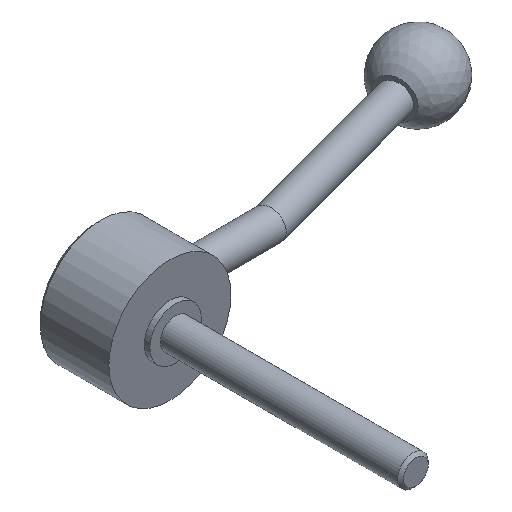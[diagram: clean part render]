
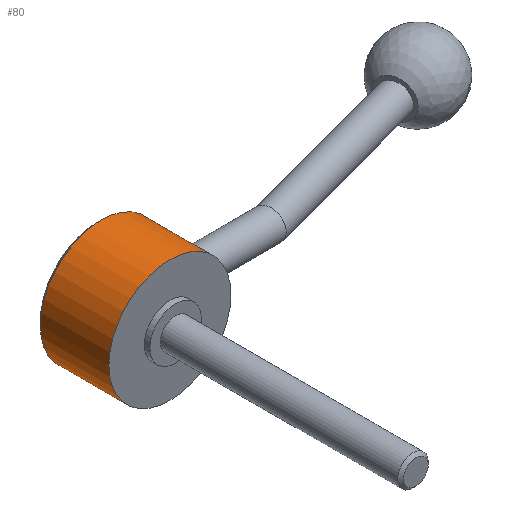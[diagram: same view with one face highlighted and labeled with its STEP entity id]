
A CAD part, isometric view. The second image highlights one B-rep face of the part: STEP entity #80.
In plain terms, the highlighted cylindrical face has radius 16 mm (diameter 32 mm), a full revolution.
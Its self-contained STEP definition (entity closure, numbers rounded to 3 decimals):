
#80 = ADVANCED_FACE( '', ( #106, #107, #108 ), #109, .T. );
#106 = FACE_OUTER_BOUND( '', #150, .T. );
#107 = FACE_BOUND( '', #151, .T. );
#108 = FACE_OUTER_BOUND( '', #152, .T. );
#109 = CYLINDRICAL_SURFACE( '', #153, 16. );
#150 = EDGE_LOOP( '', ( #204 ) );
#151 = EDGE_LOOP( '', ( #205 ) );
#152 = EDGE_LOOP( '', ( #206 ) );
#153 = AXIS2_PLACEMENT_3D( '', #207, #208, #209 );
#204 = ORIENTED_EDGE( '', *, *, #258, .F. );
#205 = ORIENTED_EDGE( '', *, *, #259, .F. );
#206 = ORIENTED_EDGE( '', *, *, #260, .T. );
#207 = CARTESIAN_POINT( '', ( 0., 0., 0. ) );
#208 = DIRECTION( '', ( 0., 1., 0. ) );
#209 = DIRECTION( '', ( 0., 0., -1. ) );
#258 = EDGE_CURVE( '', #278, #278, #279, .T. );
#259 = EDGE_CURVE( '', #280, #280, #281, .T. );
#260 = EDGE_CURVE( '', #282, #282, #283, .T. );
#278 = VERTEX_POINT( '', #306 );
#279 = CIRCLE( '', #307, 16. );
#280 = VERTEX_POINT( '', #308 );
#281 = B_SPLINE_CURVE_WITH_KNOTS( '', 3, ( #309, #310, #311, #312, #313, #314, #315, #316, #317, #318, #319, #320, #321, #322, #323, #324, #325, #326, #327, #328, #329, #330, #331, #332, #333, #334, #335, #336, #337, #338, #339, #340, #341, #342, #343, #344, #345, #346, #347, #348, #349, #350, #351, #352, #353, #354, #355, #356, #357, #358, #359, #360, #361, #362, #363, #364, #365, #366, #367, #368, #369, #370, #371, #372, #373, #374 ), .UNSPECIFIED., .T., .F., ( 2, 2, 2, 2, 2, 2, 2, 2, 2, 2, 2, 2, 2, 2, 2, 2, 2, 2, 2, 2, 2, 2, 2, 2, 2, 2, 2, 2, 2, 2, 2, 2, 2, 2, 2 ), ( -0.001, 0., 0.001, 0.002, 0.002, 0.003, 0.004, 0.005, 0.005, 0.006, 0.007, 0.008, 0.009, 0.009, 0.01, 0.011, 0.012, 0.013, 0.013, 0.014, 0.015, 0.016, 0.016, 0.017, 0.018, 0.019, 0.02, 0.02, 0.021, 0.022, 0.023, 0.024, 0.024, 0.025, 0.026 ), .UNSPECIFIED. );
#282 = VERTEX_POINT( '', #375 );
#283 = CIRCLE( '', #376, 16. );
#306 = CARTESIAN_POINT( '', ( 0., 1.5, -16. ) );
#307 = AXIS2_PLACEMENT_3D( '', #404, #405, #406 );
#308 = CARTESIAN_POINT( '', ( 15.492, 12.5, 4. ) );
#309 = CARTESIAN_POINT( '', ( 15.492, 12.765, 4. ) );
#310 = CARTESIAN_POINT( '', ( 15.492, 12.235, 4. ) );
#311 = CARTESIAN_POINT( '', ( 15.499, 11.974, 3.974 ) );
#312 = CARTESIAN_POINT( '', ( 15.525, 11.461, 3.872 ) );
#313 = CARTESIAN_POINT( '', ( 15.544, 11.207, 3.794 ) );
#314 = CARTESIAN_POINT( '', ( 15.592, 10.723, 3.593 ) );
#315 = CARTESIAN_POINT( '', ( 15.62, 10.493, 3.47 ) );
#316 = CARTESIAN_POINT( '', ( 15.682, 10.06, 3.18 ) );
#317 = CARTESIAN_POINT( '', ( 15.715, 9.855, 3.012 ) );
#318 = CARTESIAN_POINT( '', ( 15.781, 9.488, 2.644 ) );
#319 = CARTESIAN_POINT( '', ( 15.814, 9.322, 2.444 ) );
#320 = CARTESIAN_POINT( '', ( 15.875, 9.03, 2.007 ) );
#321 = CARTESIAN_POINT( '', ( 15.903, 8.906, 1.776 ) );
#322 = CARTESIAN_POINT( '', ( 15.949, 8.706, 1.295 ) );
#323 = CARTESIAN_POINT( '', ( 15.968, 8.629, 1.042 ) );
#324 = CARTESIAN_POINT( '', ( 15.993, 8.526, 0.525 ) );
#325 = CARTESIAN_POINT( '', ( 16., 8.5, 0.265 ) );
#326 = CARTESIAN_POINT( '', ( 16., 8.5, -0.26 ) );
#327 = CARTESIAN_POINT( '', ( 15.993, 8.526, -0.526 ) );
#328 = CARTESIAN_POINT( '', ( 15.968, 8.629, -1.04 ) );
#329 = CARTESIAN_POINT( '', ( 15.95, 8.704, -1.29 ) );
#330 = CARTESIAN_POINT( '', ( 15.903, 8.906, -1.775 ) );
#331 = CARTESIAN_POINT( '', ( 15.875, 9.031, -2.008 ) );
#332 = CARTESIAN_POINT( '', ( 15.814, 9.32, -2.44 ) );
#333 = CARTESIAN_POINT( '', ( 15.781, 9.486, -2.643 ) );
#334 = CARTESIAN_POINT( '', ( 15.715, 9.857, -3.014 ) );
#335 = CARTESIAN_POINT( '', ( 15.682, 10.058, -3.178 ) );
#336 = CARTESIAN_POINT( '', ( 15.62, 10.49, -3.468 ) );
#337 = CARTESIAN_POINT( '', ( 15.592, 10.724, -3.594 ) );
#338 = CARTESIAN_POINT( '', ( 15.544, 11.207, -3.794 ) );
#339 = CARTESIAN_POINT( '', ( 15.525, 11.456, -3.87 ) );
#340 = CARTESIAN_POINT( '', ( 15.499, 11.971, -3.974 ) );
#341 = CARTESIAN_POINT( '', ( 15.492, 12.237, -4. ) );
#342 = CARTESIAN_POINT( '', ( 15.492, 12.76, -4. ) );
#343 = CARTESIAN_POINT( '', ( 15.499, 13.021, -3.975 ) );
#344 = CARTESIAN_POINT( '', ( 15.525, 13.541, -3.871 ) );
#345 = CARTESIAN_POINT( '', ( 15.544, 13.791, -3.795 ) );
#346 = CARTESIAN_POINT( '', ( 15.591, 14.273, -3.595 ) );
#347 = CARTESIAN_POINT( '', ( 15.62, 14.507, -3.47 ) );
#348 = CARTESIAN_POINT( '', ( 15.682, 14.941, -3.18 ) );
#349 = CARTESIAN_POINT( '', ( 15.714, 15.142, -3.015 ) );
#350 = CARTESIAN_POINT( '', ( 15.781, 15.511, -2.646 ) );
#351 = CARTESIAN_POINT( '', ( 15.814, 15.679, -2.442 ) );
#352 = CARTESIAN_POINT( '', ( 15.875, 15.968, -2.01 ) );
#353 = CARTESIAN_POINT( '', ( 15.903, 16.092, -1.78 ) );
#354 = CARTESIAN_POINT( '', ( 15.949, 16.294, -1.294 ) );
#355 = CARTESIAN_POINT( '', ( 15.968, 16.371, -1.042 ) );
#356 = CARTESIAN_POINT( '', ( 15.993, 16.473, -0.53 ) );
#357 = CARTESIAN_POINT( '', ( 16., 16.5, -0.266 ) );
#358 = CARTESIAN_POINT( '', ( 16., 16.5, 0.262 ) );
#359 = CARTESIAN_POINT( '', ( 15.994, 16.474, 0.522 ) );
#360 = CARTESIAN_POINT( '', ( 15.968, 16.372, 1.036 ) );
#361 = CARTESIAN_POINT( '', ( 15.95, 16.295, 1.291 ) );
#362 = CARTESIAN_POINT( '', ( 15.903, 16.095, 1.774 ) );
#363 = CARTESIAN_POINT( '', ( 15.876, 15.972, 2.004 ) );
#364 = CARTESIAN_POINT( '', ( 15.814, 15.68, 2.44 ) );
#365 = CARTESIAN_POINT( '', ( 15.781, 15.514, 2.643 ) );
#366 = CARTESIAN_POINT( '', ( 15.715, 15.147, 3.01 ) );
#367 = CARTESIAN_POINT( '', ( 15.682, 14.944, 3.177 ) );
#368 = CARTESIAN_POINT( '', ( 15.62, 14.508, 3.469 ) );
#369 = CARTESIAN_POINT( '', ( 15.592, 14.279, 3.592 ) );
#370 = CARTESIAN_POINT( '', ( 15.544, 13.797, 3.793 ) );
#371 = CARTESIAN_POINT( '', ( 15.525, 13.542, 3.871 ) );
#372 = CARTESIAN_POINT( '', ( 15.499, 13.027, 3.974 ) );
#373 = CARTESIAN_POINT( '', ( 15.492, 12.765, 4. ) );
#374 = CARTESIAN_POINT( '', ( 15.492, 12.235, 4. ) );
#375 = CARTESIAN_POINT( '', ( 0., 19.5, -16. ) );
#376 = AXIS2_PLACEMENT_3D( '', #407, #408, #409 );
#404 = CARTESIAN_POINT( '', ( 0., 1.5, 0. ) );
#405 = DIRECTION( '', ( 0., -1., 0. ) );
#406 = DIRECTION( '', ( 0., 0., -1. ) );
#407 = CARTESIAN_POINT( '', ( 0., 19.5, 0. ) );
#408 = DIRECTION( '', ( 0., -1., 0. ) );
#409 = DIRECTION( '', ( 0., 0., -1. ) );
